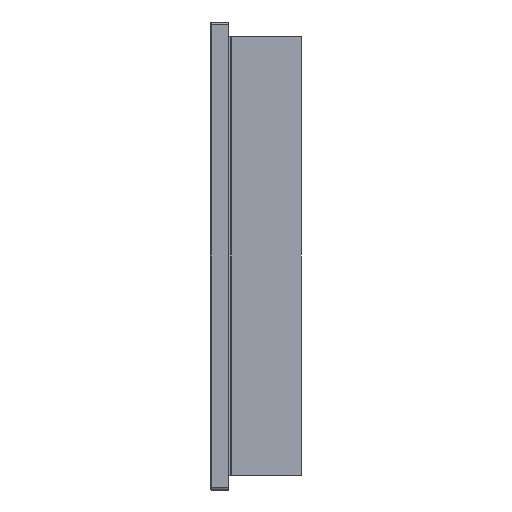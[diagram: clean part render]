
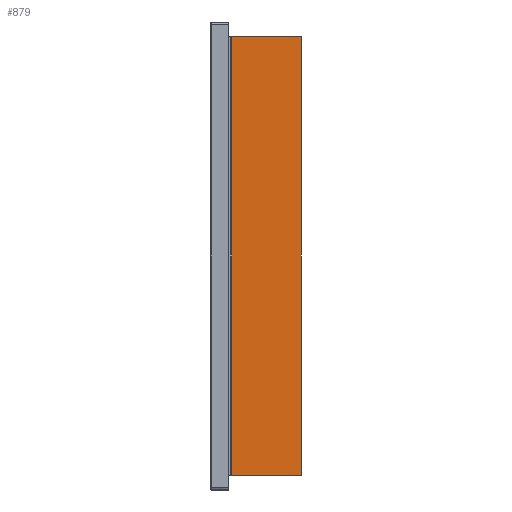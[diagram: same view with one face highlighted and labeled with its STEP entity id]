
A CAD part, left-side view. The second image highlights one B-rep face of the part: STEP entity #879.
In plain terms, the highlighted planar face has unit normal (-1, 0, 0).
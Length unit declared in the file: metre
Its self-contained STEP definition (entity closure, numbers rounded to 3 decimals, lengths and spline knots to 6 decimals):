
#879=ADVANCED_FACE('11:7155',(#3300),#3301,.T.);
#3300=FACE_OUTER_BOUND('',#6765,.T.);
#3301=PLANE('',#6766);
#6765=EDGE_LOOP('',(#13727,#13728,#13729,#13730));
#6766=AXIS2_PLACEMENT_3D('',#13731,#13732,#13733);
#13727=ORIENTED_EDGE('',*,*,#24860,.F.);
#13728=ORIENTED_EDGE('',*,*,#24859,.T.);
#13729=ORIENTED_EDGE('',*,*,#24861,.T.);
#13730=ORIENTED_EDGE('',*,*,#24862,.F.);
#13731=CARTESIAN_POINT('',(-0.238,-0.007,-0.16));
#13732=DIRECTION('',(-1.0,0.,0.0));
#13733=DIRECTION('',(0.,-1.0,0.0));
#24859=EDGE_CURVE('11:16137',#30413,#30415,#30417,.T.);
#24860=EDGE_CURVE('11:16140',#30413,#30418,#30419,.T.);
#24861=EDGE_CURVE('11:16143',#30415,#30420,#30421,.T.);
#24862=EDGE_CURVE('11:16146',#30418,#30420,#30422,.T.);
#30413=VERTEX_POINT('NONE',#39450);
#30415=VERTEX_POINT('NONE',#39453);
#30417=LINE('',#39456,#39457);
#30418=VERTEX_POINT('NONE',#39458);
#30419=LINE('',#39459,#39460);
#30420=VERTEX_POINT('NONE',#39461);
#30421=LINE('',#39462,#39463);
#30422=LINE('',#39464,#39465);
#39450=CARTESIAN_POINT('',(-0.238,-0.007,-0.15));
#39453=CARTESIAN_POINT('',(-0.238,-0.007,0.15));
#39456=CARTESIAN_POINT('',(-0.238,-0.007,-0.16));
#39457=VECTOR('',#51249,1.0);
#39458=CARTESIAN_POINT('',(-0.238,0.040752,-0.15));
#39459=CARTESIAN_POINT('',(-0.238,-0.007,-0.15));
#39460=VECTOR('',#51250,1.0);
#39461=CARTESIAN_POINT('',(-0.238,0.040752,0.15));
#39462=CARTESIAN_POINT('',(-0.238,-0.007,0.15));
#39463=VECTOR('',#51251,1.0);
#39464=CARTESIAN_POINT('',(-0.238,0.040752,-0.16));
#39465=VECTOR('',#51252,1.0);
#51249=DIRECTION('',(0.0,0.0,1.0));
#51250=DIRECTION('',(0.,1.0,0.));
#51251=DIRECTION('',(0.,1.0,0.));
#51252=DIRECTION('',(0.0,0.0,1.0));
